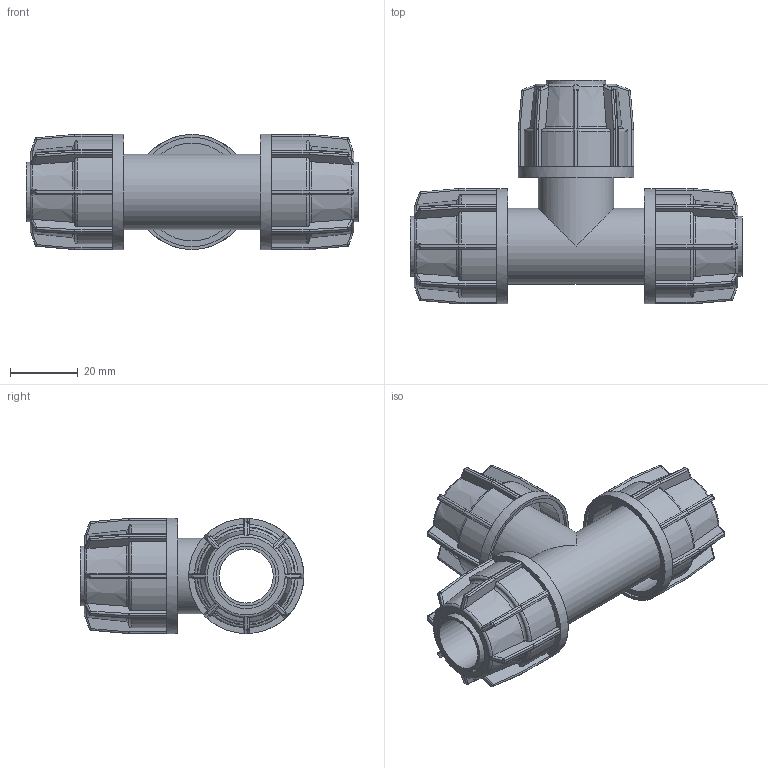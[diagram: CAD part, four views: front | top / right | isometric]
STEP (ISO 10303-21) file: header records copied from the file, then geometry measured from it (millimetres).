
FILE_DESCRIPTION(/* description */ ('PLASSON IRRIFIT TEE 16-16-16'),/* implementation_level */ '2;1');
FILE_NAME(/* name */ 'C:\Dropbox\KIMPROJECTS-Inventor\99-16-3568-Processing\Silver+MF ISRAEL\040407\040407016.ipt.stp',/* time_stamp */ '2018-04-09T12:59:43+03:00',/* author */ ('KIM'),/* organization */ (''),/* preprocessor_version */ 'ST-DEVELOPER v15.6',/* originating_system */ 'Autodesk Inventor 2015',/* authorisation */ '');
FILE_SCHEMA (('AUTOMOTIVE_DESIGN { 1 0 10303 214 3 1 1 }'));
Length unit declared in the file: millimetre
Products named in the file (1): 040407016
Bounding box: 98 x 66 x 34 mm (x, y, z)
Volume: 41959.3 mm3; surface area: 28350 mm2
Topology: 1 solids, 1 shells, 784 faces, 1888 edges, 1086 vertices
Faces by surface type: plane 378, cylinder 235, sphere 96, torus 51, cone 24
Full cylindrical faces by diameter (mm): 16 x2, 17.6 x3, 19.2 x3, 22.4 x2, 28.9 x3, 32.3 x3, 34 x3
Entity records: 23246 total; most frequent: CARTESIAN_POINT 6067, DIRECTION 3612, ORIENTED_EDGE 3578, EDGE_CURVE 1789, AXIS2_PLACEMENT_3D 1446, VERTEX_POINT 1045, EDGE_LOOP 826, FACE_OUTER_BOUND 784
